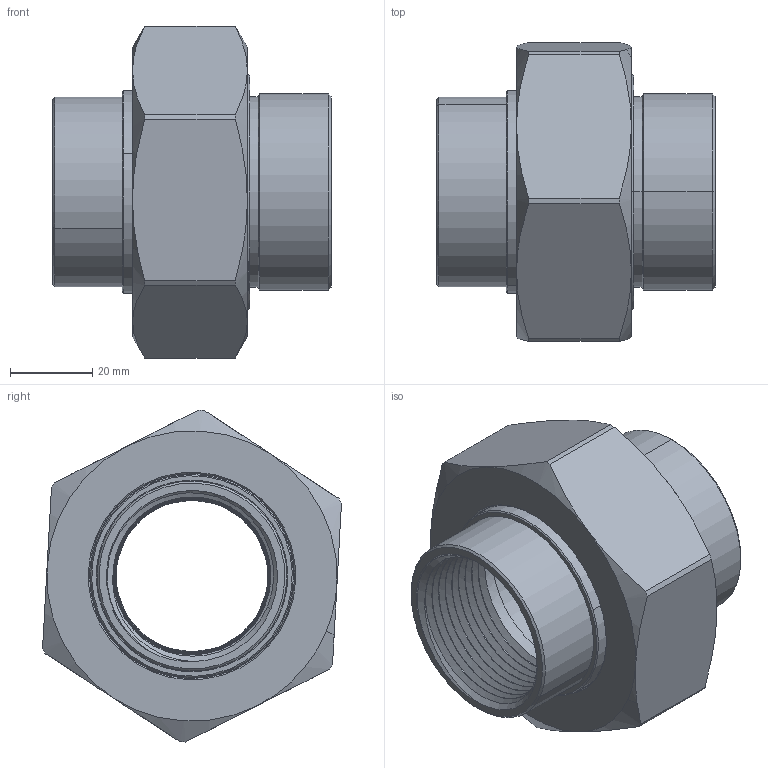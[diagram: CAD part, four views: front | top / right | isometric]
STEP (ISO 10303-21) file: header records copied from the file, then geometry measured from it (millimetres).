
FILE_DESCRIPTION (( 'STEP AP203' ), '1' );
FILE_NAME ('701-406.STEP', '2022-03-21T05:16:24', ( '' ), ( '' ), 'SwSTEP 2.0', 'SolidWorks 2012', '' );
FILE_SCHEMA (( 'CONFIG_CONTROL_DESIGN' ));
Length unit declared in the file: millimetre
Products named in the file (6): 701-406; 呿蹋杶; 内牙接头（网纹滚花）; 菜え; 铁内牙接头（放在尼龙隔套里面）; 鞠褒簽
Assembly tree (5 placements, depth 2):
  701-406
    鞠褒簽
    菜え
    呿蹋杶
    内牙接头（网纹滚花）
    铁内牙接头（放在尼龙隔套里面）
Bounding box: 67.8 x 72.87 x 80.94 mm (x, y, z)
Volume: 108519 mm3; surface area: 56613.4 mm2
Topology: 5 solids, 5 shells, 184 faces, 461 edges, 293 vertices
Faces by surface type: cone 91, cylinder 56, plane 25, bspline 8, torus 4
Entity records: 14308 total; most frequent: CARTESIAN_POINT 9604, ORIENTED_EDGE 922, DIRECTION 771, EDGE_CURVE 461, AXIS2_PLACEMENT_3D 312, VERTEX_POINT 293, EDGE_LOOP 200, FACE_OUTER_BOUND 184
